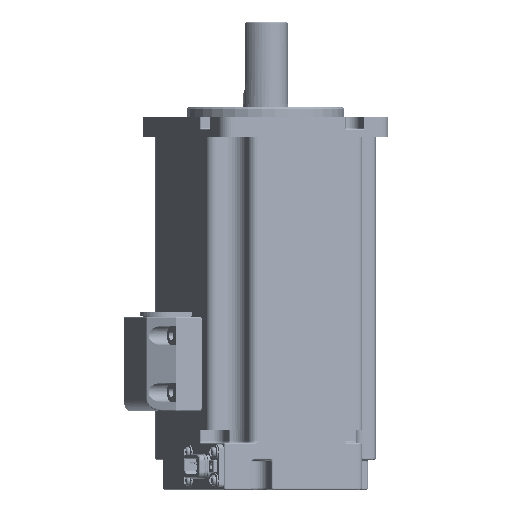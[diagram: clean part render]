
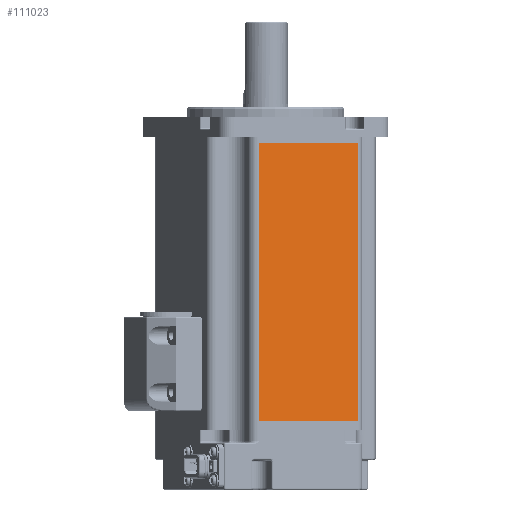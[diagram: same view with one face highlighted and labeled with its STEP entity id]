
A CAD part, left-side view. The second image highlights one B-rep face of the part: STEP entity #111023.
In plain terms, the highlighted planar face has unit normal (-0.89, -0.456, 0) as drawn and (1, 0, 0) by its records, which use the part's own axes.
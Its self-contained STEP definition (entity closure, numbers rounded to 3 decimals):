
#4804 = CARTESIAN_POINT ( 'NONE',  ( 30., -17.55, 88. ) ) ;
#7273 = LINE ( 'NONE', #91700, #28198 ) ;
#7420 = CARTESIAN_POINT ( 'NONE',  ( 30., 17.55, 0. ) ) ;
#15652 = DIRECTION ( 'NONE',  ( 0., 0., 1. ) ) ;
#24505 = CARTESIAN_POINT ( 'NONE',  ( 30., 17.55, 88. ) ) ;
#28198 = VECTOR ( 'NONE', #104018, 1000. ) ;
#33788 = LINE ( 'NONE', #128819, #106150 ) ;
#36065 = LINE ( 'NONE', #143193, #155951 ) ;
#36181 = PLANE ( 'NONE',  #42998 ) ;
#38683 = VERTEX_POINT ( 'NONE', #7420 ) ;
#39745 = CARTESIAN_POINT ( 'NONE',  ( 30., -17.55, 88. ) ) ;
#41436 = EDGE_CURVE ( 'NONE', #95578, #38683, #33788, .T. ) ;
#42789 = LINE ( 'NONE', #39745, #130342 ) ;
#42998 = AXIS2_PLACEMENT_3D ( 'NONE', #24505, #145705, #49974 ) ;
#45438 = CARTESIAN_POINT ( 'NONE',  ( 30., -17.55, 0. ) ) ;
#49231 = ORIENTED_EDGE ( 'NONE', *, *, #130861, .F. ) ;
#49974 = DIRECTION ( 'NONE',  ( 0., 0., 1. ) ) ;
#55501 = DIRECTION ( 'NONE',  ( 0., 1., 0. ) ) ;
#66041 = EDGE_CURVE ( 'NONE', #86274, #66996, #36065, .T. ) ;
#66996 = VERTEX_POINT ( 'NONE', #90766 ) ;
#86274 = VERTEX_POINT ( 'NONE', #4804 ) ;
#90766 = CARTESIAN_POINT ( 'NONE',  ( 30., 17.55, 88. ) ) ;
#91514 = EDGE_CURVE ( 'NONE', #95578, #86274, #42789, .T. ) ;
#91700 = CARTESIAN_POINT ( 'NONE',  ( 30., 17.55, 88. ) ) ;
#95578 = VERTEX_POINT ( 'NONE', #45438 ) ;
#98425 = FACE_OUTER_BOUND ( 'NONE', #157294, .T. ) ;
#104018 = DIRECTION ( 'NONE',  ( 0., 0., -1. ) ) ;
#106150 = VECTOR ( 'NONE', #55501, 1000. ) ;
#111023 = ADVANCED_FACE ( 'NONE', ( #98425 ), #36181, .F. ) ;
#111343 = ORIENTED_EDGE ( 'NONE', *, *, #91514, .F. ) ;
#120344 = DIRECTION ( 'NONE',  ( 0., 1., 0. ) ) ;
#127014 = ORIENTED_EDGE ( 'NONE', *, *, #66041, .F. ) ;
#128819 = CARTESIAN_POINT ( 'NONE',  ( 30., -25.05, 0. ) ) ;
#130108 = ORIENTED_EDGE ( 'NONE', *, *, #41436, .T. ) ;
#130342 = VECTOR ( 'NONE', #15652, 1000. ) ;
#130861 = EDGE_CURVE ( 'NONE', #66996, #38683, #7273, .T. ) ;
#143193 = CARTESIAN_POINT ( 'NONE',  ( 30., -25.05, 88. ) ) ;
#145705 = DIRECTION ( 'NONE',  ( -1., 0., 0. ) ) ;
#155951 = VECTOR ( 'NONE', #120344, 1000. ) ;
#157294 = EDGE_LOOP ( 'NONE', ( #49231, #127014, #111343, #130108 ) ) ;
